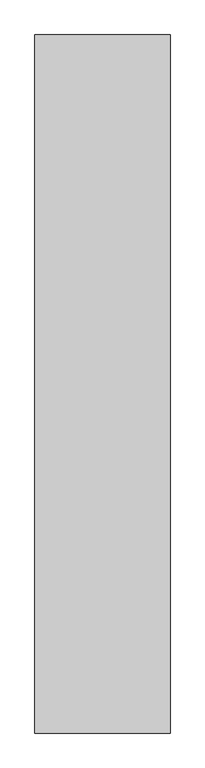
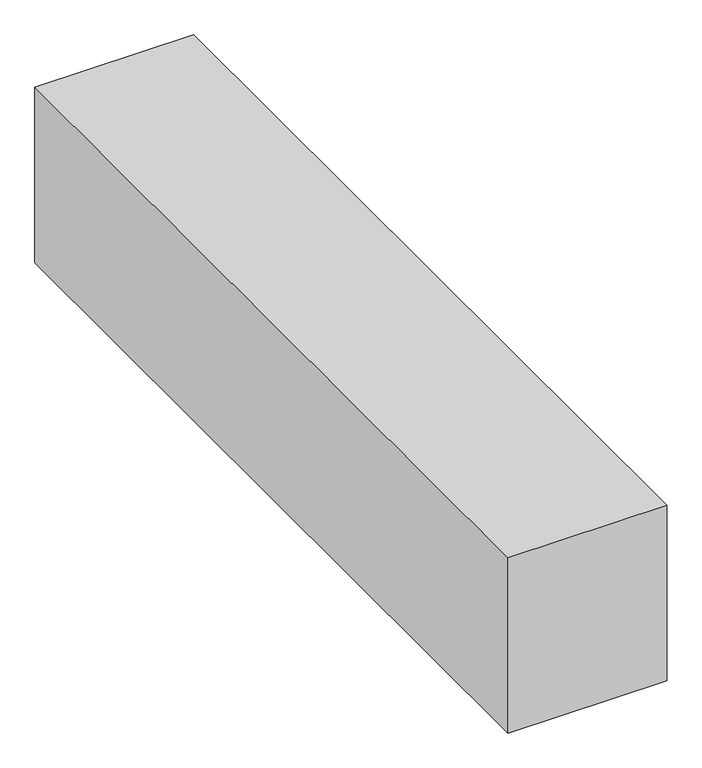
"""IFC4 building model written with IfcOpenShell, lengths in millimetres: proxy geometry, 制気口ボックス : 制気口ボックス."""

from ifc_helpers import new_model, si_unit, frame, origin, place, context, project, spatial, polyline, outline, extrude, source, transform, mapped, element, save


def mechanical_equipment_e9732131(model_context):
    return source(origin(), model_context, "Body", "SweptSolid", [
        extrude(outline(polyline([(150.0, 775.0), (150.0, -775.0), (-150.0, -775.0), (-150.0, 775.0), (150.0, 775.0)])), frame((0.0, 0.0, -175.0), z_axis=(0.0, 0.0, 1.0), x_axis=(1.0, 0.0, 0.0)), (0.0, 0.0, 1.0), 350.0),
    ])


if __name__ == "__main__":
    model = new_model("IFC4")
    model_context = context("Model", 3, world=origin())
    ifc_project = project(units=[si_unit("LENGTHUNIT", "METRE", prefix="MILLI")], contexts=[model_context])
    site = spatial("IfcSite", under=ifc_project)
    building = spatial("IfcBuilding", under=site)
    placement = place(None, origin())
    mechanical_equipment_shape = mechanical_equipment_e9732131(model_context)
    element("IfcBuildingElementProxy", 1, Name="制気口ボックス : 制気口ボックス", ObjectType="制気口ボックス : 制気口ボックス", at=placement, inside=building, context=model_context, shape_type="MappedRepresentation", body=[
        mapped(mechanical_equipment_shape, transform((0.0, 0.0, 0.0), x_axis=(1.0, 0.0, 0.0), y_axis=(0.0, 1.0, 0.0), z_axis=(0.0, 0.0, 1.0))),
    ])
    save(model, "model.ifc")
